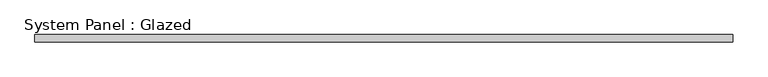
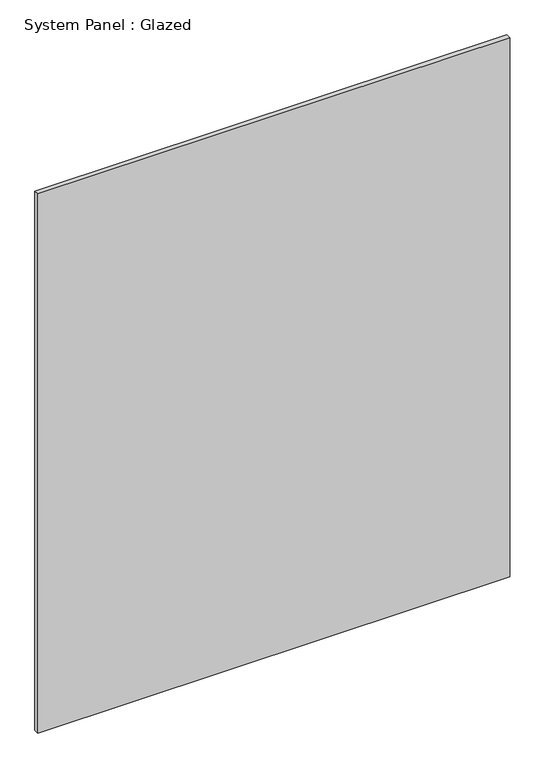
"""IFC4 building model written with IfcOpenShell, lengths in millimetres: plate geometry, System Panel : Glazed."""

import ifcopenshell
import ifcopenshell.guid

model = None  # the IFC model being written
_history = None  # IfcOwnerHistory: only IFC2X3 demands one
_inside = {}  # id of a spatial element -> (the spatial element, [elements in it])
_under = {}  # id of a project, library or spatial element -> (it, [spatial elements below it])
_declared = {}  # id of a project -> (the project, [libraries it declares])
_typed = {}  # id of a type object -> (the type object, [elements of that type])
_made_of = {}  # id of a material, layer set ... -> (it, [elements and type objects made of it])


def new_model(schema):
    """Start an empty IFC model of exactly this schema.

    Asked for "IFC4X3", IfcOpenShell would pick the latest addendum, in which some entities
    have other attributes; the version numbers below select the first issue.
    IFC2X3 requires an IfcOwnerHistory on every rooted entity: one is made here for all.
    """
    global model, _history
    if schema == "IFC4X3":
        model = ifcopenshell.file(schema_version=(4, 3, 0, 0))
    else:
        model = ifcopenshell.file(schema=schema)
    _inside.clear()
    _under.clear()
    _declared.clear()
    _typed.clear()
    _made_of.clear()
    _history = None
    if model.schema == "IFC2X3":
        org = make("IfcOrganization", Name="unknown")
        user = make(
            "IfcPersonAndOrganization",
            ThePerson=make("IfcPerson", FamilyName="unknown"),
            TheOrganization=org,
        )
        app = make(
            "IfcApplication",
            ApplicationDeveloper=org,
            Version="unknown",
            ApplicationFullName="unknown",
            ApplicationIdentifier="unknown",
        )
        _history = make(
            "IfcOwnerHistory",
            OwningUser=user,
            OwningApplication=app,
            ChangeAction="ADDED",
            CreationDate=0,
        )
    return model


def make(cls, **values):
    """One entity of the class cls with the attributes given. An attribute that is None is left unset."""
    return model.create_entity(
        cls, **{name: value for name, value in values.items() if value is not None}
    )


def rooted(cls, **values):
    """An entity with a GlobalId (a new one), such as an element, a storey or a relation."""
    return make(cls, GlobalId=ifcopenshell.guid.new(), OwnerHistory=_history, **values)


def si_unit(unit_type, name, prefix=None):
    """IfcSIUnit, for example si_unit("LENGTHUNIT", "METRE", prefix="MILLI")."""
    return make("IfcSIUnit", UnitType=unit_type, Prefix=prefix, Name=name)


def assignment(units):
    """IfcUnitAssignment: the units of a project."""
    return None if units is None else make("IfcUnitAssignment", Units=units)


def point(xyz):
    """IfcCartesianPoint."""
    return None if xyz is None else make("IfcCartesianPoint", Coordinates=xyz)


def direction(xyz):
    """IfcDirection."""
    return None if xyz is None else make("IfcDirection", DirectionRatios=xyz)


def frame(location, z_axis=None, x_axis=None):
    """IfcAxis2Placement3D, a coordinate frame: its origin and axes. An axis left out is left unset."""
    return make(
        "IfcAxis2Placement3D",
        Location=point(location),
        Axis=direction(z_axis),
        RefDirection=direction(x_axis),
    )


def origin():
    """The frame at (0, 0, 0) with its axes left unset."""
    return frame((0.0, 0.0, 0.0))


def origin_with_axes():
    """The frame at (0, 0, 0) with the z axis (0, 0, 1) and the x axis (1, 0, 0) written out."""
    return frame((0.0, 0.0, 0.0), z_axis=(0.0, 0.0, 1.0), x_axis=(1.0, 0.0, 0.0))


def place(relative_to, where):
    """IfcLocalPlacement: puts the frame where relative to a parent placement (None: the world)."""
    return make(
        "IfcLocalPlacement", PlacementRelTo=relative_to, RelativePlacement=where
    )


def context(
    kind, dimensions, precision=None, world=None, true_north=None, identifier=None
):
    """IfcGeometricRepresentationContext, for example the 3D "Model" context."""
    return make(
        "IfcGeometricRepresentationContext",
        ContextIdentifier=identifier,
        ContextType=kind,
        CoordinateSpaceDimension=dimensions,
        Precision=precision,
        WorldCoordinateSystem=world,
        TrueNorth=true_north,
    )


def project(units=None, contexts=None):
    """IfcProject with its units and contexts."""
    return rooted(
        "IfcProject",
        Name="project",
        RepresentationContexts=contexts,
        UnitsInContext=assignment(units),
    )


def spatial(cls, under=None, at=None, **own):
    """A site, building, storey or space (cls), placed at a placement, below another one or the project."""
    s = rooted(cls, ObjectPlacement=at, **own)
    if under is not None:
        _under.setdefault(under.id(), (under, []))[1].append(s)
    return s


def polyline(points):
    """IfcPolyline through the points."""
    return make("IfcPolyline", Points=[point(p) for p in points])


def outline(outer, holes=None, kind="AREA"):
    """IfcArbitraryClosedProfileDef: a profile drawn as a closed curve; with holes, ...WithVoids."""
    if holes is None:
        return make("IfcArbitraryClosedProfileDef", ProfileType=kind, OuterCurve=outer)
    return make(
        "IfcArbitraryProfileDefWithVoids",
        ProfileType=kind,
        OuterCurve=outer,
        InnerCurves=holes,
    )


def extrude(swept, where, along, depth):
    """IfcExtrudedAreaSolid: the profile swept, set in the frame where, extruded along a direction by depth."""
    return make(
        "IfcExtrudedAreaSolid",
        SweptArea=swept,
        Position=where,
        ExtrudedDirection=direction(along),
        Depth=depth,
    )


def shape(context_of_items, identifier, shape_type, items):
    """IfcShapeRepresentation: the items that make up one representation, for example the "Body"."""
    return make(
        "IfcShapeRepresentation",
        ContextOfItems=context_of_items,
        RepresentationIdentifier=identifier,
        RepresentationType=shape_type,
        Items=items,
    )


def source(mapping_origin, context_of_items, identifier, shape_type, items):
    """IfcRepresentationMap: a shape defined once, which mapped items show again and again."""
    return make(
        "IfcRepresentationMap",
        MappingOrigin=mapping_origin,
        MappedRepresentation=shape(context_of_items, identifier, shape_type, items),
    )


def transform(
    local_origin,
    x_axis=None,
    y_axis=None,
    z_axis=None,
    scale=None,
    scale2=None,
    scale3=None,
    uniform=True,
):
    """IfcCartesianTransformationOperator3D, or its non-uniform kind. x_axis, y_axis, z_axis: its Axis1, 2, 3."""
    if uniform:
        return make(
            "IfcCartesianTransformationOperator3D",
            Axis1=direction(x_axis),
            Axis2=direction(y_axis),
            LocalOrigin=point(local_origin),
            Scale=scale,
            Axis3=direction(z_axis),
        )
    return make(
        "IfcCartesianTransformationOperator3DnonUniform",
        Axis1=direction(x_axis),
        Axis2=direction(y_axis),
        LocalOrigin=point(local_origin),
        Scale=scale,
        Axis3=direction(z_axis),
        Scale2=scale2,
        Scale3=scale3,
    )


def mapped(mapping_source, mapping_target):
    """IfcMappedItem: shows the shape of a source again, moved by a transform."""
    return make(
        "IfcMappedItem", MappingSource=mapping_source, MappingTarget=mapping_target
    )


def made_of(thing, what):
    """Note that an element or type object is made of a material, layer set ...; save() writes the relation."""
    if what is not None:
        _made_of.setdefault(what.id(), (what, []))[1].append(thing)
    return thing


def element(
    cls,
    number,
    at=None,
    inside=None,
    cuts=None,
    type_object=None,
    material=None,
    context=None,
    identifier="Body",
    shape_type=None,
    held_by="IfcProductDefinitionShape",
    body=None,
    shapes=None,
    **own,
):
    """One element of the class cls, such as IfcWall. Its Tag is "e" and its number.

    at: its placement. inside: the storey or other place that contains it. cuts: it is an
    opening in that element (IfcRelVoidsElement). A single representation is given by context,
    identifier, shape_type and body (its items); several are given by shapes. held_by: the class
    of the entity that holds the representations. save() writes the other relations.
    """
    e = rooted(cls, Tag="e%d" % number, ObjectPlacement=at, **own)
    if body is not None:
        shapes = [shape(context, identifier, shape_type, body)]
    if shapes is not None:
        e.Representation = make(held_by, Representations=shapes)
    if inside is not None:
        _inside.setdefault(inside.id(), (inside, []))[1].append(e)
    if cuts is not None:
        rooted(
            "IfcRelVoidsElement", RelatingBuildingElement=cuts, RelatedOpeningElement=e
        )
    if type_object is not None:
        _typed.setdefault(type_object.id(), (type_object, []))[1].append(e)
    return made_of(e, material)


def aggregate(whole, parts):
    """IfcRelAggregates: a whole, such as a stair, and the parts it consists of."""
    return rooted("IfcRelAggregates", RelatingObject=whole, RelatedObjects=parts)


def save(model, path):
    """Write the relations noted so far, then the file.

    IfcRelAggregates (storeys below a building ...), IfcRelContainedInSpatialStructure (elements
    in a storey), IfcRelDefinesByType, IfcRelAssociatesMaterial and IfcRelDeclares: one each for
    every whole, place, type object, material and project.
    """
    for whole, parts in _under.values():
        aggregate(whole, parts)
    for where, things in _inside.values():
        rooted(
            "IfcRelContainedInSpatialStructure",
            RelatedElements=things,
            RelatingStructure=where,
        )
    for kind, things in _typed.values():
        rooted("IfcRelDefinesByType", RelatedObjects=things, RelatingType=kind)
    for what, things in _made_of.values():
        rooted("IfcRelAssociatesMaterial", RelatedObjects=things, RelatingMaterial=what)
    for by, libraries in _declared.values():
        rooted("IfcRelDeclares", RelatingContext=by, RelatedDefinitions=libraries)
    model.write(path)


def system_panel_glazed_dec8f576(model_context):
    return source(origin(), model_context, "Body", "SweptSolid", [
        extrude(outline(polyline([(1222.3750001, 19.05), (-1222.3750001, 19.05), (-1222.3750001, 44.45), (1222.3750001, 44.45), (1222.3750001, 19.05)])), origin_with_axes(), (0.0, 0.0, 1.0), 2952.75),
    ])


if __name__ == "__main__":
    model = new_model("IFC4")
    model_context = context("Model", 3, world=origin())
    ifc_project = project(units=[si_unit("LENGTHUNIT", "METRE", prefix="MILLI")], contexts=[model_context])
    site = spatial("IfcSite", under=ifc_project)
    building = spatial("IfcBuilding", under=site)
    placement = place(None, origin())
    system_panel_glazed_shape = system_panel_glazed_dec8f576(model_context)
    element("IfcPlate", 1, ObjectType="System Panel : Glazed", at=placement, inside=building, context=model_context, shape_type="MappedRepresentation", body=[
        mapped(system_panel_glazed_shape, transform((0.0, 0.0, 0.0), x_axis=(1.0, 0.0, 0.0), y_axis=(0.0, 1.0, 0.0), z_axis=(0.0, 0.0, 1.0))),
    ])
    save(model, "model.ifc")
